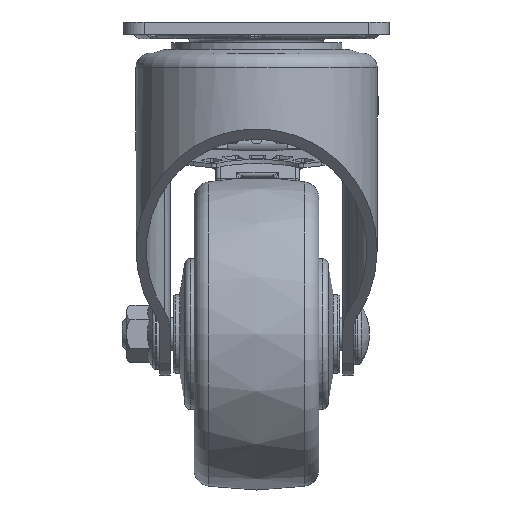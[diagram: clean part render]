
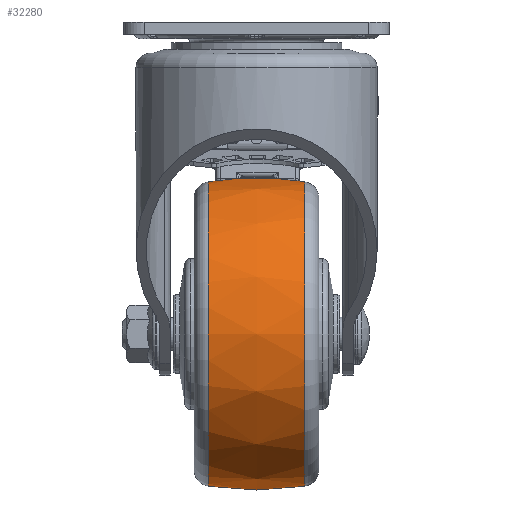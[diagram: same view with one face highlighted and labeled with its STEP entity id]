
A CAD part, left-side view. The second image highlights one B-rep face of the part: STEP entity #32280.
In plain terms, the highlighted free-form (B-spline) face has degree [2, 2] with [3, 9] control points.
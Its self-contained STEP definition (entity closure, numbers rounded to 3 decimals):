
#4407=(
BOUNDED_CURVE()
B_SPLINE_CURVE(2,(#48560,#48561,#48562),.UNSPECIFIED.,.F.,.F.)
B_SPLINE_CURVE_WITH_KNOTS((3,3),(-0.156,0.156),
 .UNSPECIFIED.)
CURVE()
GEOMETRIC_REPRESENTATION_ITEM()
RATIONAL_B_SPLINE_CURVE((1.,0.988,1.))
REPRESENTATION_ITEM('')
);
#4426=(
BOUNDED_SURFACE()
B_SPLINE_SURFACE(2,2,((#48529,#48530,#48531,#48532,#48533,#48534,#48535,
#48536,#48537),(#48538,#48539,#48540,#48541,#48542,#48543,#48544,#48545,
#48546),(#48547,#48548,#48549,#48550,#48551,#48552,#48553,#48554,#48555)),
 .UNSPECIFIED.,.F.,.T.,.F.)
B_SPLINE_SURFACE_WITH_KNOTS((3,3),(3,2,2,2,3),(-0.156,0.156),
(-3.142,-1.571,0.,1.571,3.142),
 .UNSPECIFIED.)
GEOMETRIC_REPRESENTATION_ITEM()
RATIONAL_B_SPLINE_SURFACE(((1.,0.707,1.,0.707,1.,
0.707,1.,0.707,1.),(0.988,0.699,
0.988,0.699,0.988,0.699,
0.988,0.699,0.988),(1.,0.707,
1.,0.707,1.,0.707,1.,0.707,1.)))
REPRESENTATION_ITEM('')
SURFACE()
);
#6449=FACE_OUTER_BOUND('',#8463,.T.);
#8463=EDGE_LOOP('',(#20739,#20740,#20741,#20742,#20743,#20744));
#11141=CIRCLE('',#34300,3.659);
#11142=CIRCLE('',#34301,3.659);
#11143=CIRCLE('',#34302,3.659);
#11144=CIRCLE('',#34303,3.659);
#13152=VERTEX_POINT('',#48525);
#13153=VERTEX_POINT('',#48526);
#13154=VERTEX_POINT('',#48556);
#13155=VERTEX_POINT('',#48557);
#16036=EDGE_CURVE('',#13152,#13153,#11141,.T.);
#16037=EDGE_CURVE('',#13153,#13152,#11142,.T.);
#16038=EDGE_CURVE('',#13154,#13155,#11143,.T.);
#16039=EDGE_CURVE('',#13155,#13154,#11144,.T.);
#16040=EDGE_CURVE('',#13155,#13153,#4407,.T.);
#20739=ORIENTED_EDGE('',*,*,#16038,.F.);
#20740=ORIENTED_EDGE('',*,*,#16039,.F.);
#20741=ORIENTED_EDGE('',*,*,#16040,.T.);
#20742=ORIENTED_EDGE('',*,*,#16037,.T.);
#20743=ORIENTED_EDGE('',*,*,#16036,.T.);
#20744=ORIENTED_EDGE('',*,*,#16040,.F.);
#32280=ADVANCED_FACE('',(#6449),#4426,.F.);
#34300=AXIS2_PLACEMENT_3D('',#48527,#38220,#38221);
#34301=AXIS2_PLACEMENT_3D('',#48528,#38222,#38223);
#34302=AXIS2_PLACEMENT_3D('',#48558,#38224,#38225);
#34303=AXIS2_PLACEMENT_3D('',#48559,#38226,#38227);
#38220=DIRECTION('center_axis',(0.,1.,0.));
#38221=DIRECTION('ref_axis',(0.,0.,-1.));
#38222=DIRECTION('center_axis',(0.,1.,0.));
#38223=DIRECTION('ref_axis',(0.,0.,-1.));
#38224=DIRECTION('center_axis',(0.,1.,0.));
#38225=DIRECTION('ref_axis',(0.,0.,-1.));
#38226=DIRECTION('center_axis',(0.,1.,0.));
#38227=DIRECTION('ref_axis',(0.,0.,-1.));
#48525=CARTESIAN_POINT('',(-1.722,5.005,-6.925));
#48526=CARTESIAN_POINT('',(1.937,5.005,-3.266));
#48527=CARTESIAN_POINT('Origin',(1.937,5.005,-6.925));
#48528=CARTESIAN_POINT('Origin',(1.937,5.005,-6.925));
#48529=CARTESIAN_POINT('Ctrl Pts',(1.937,5.005,-3.266));
#48530=CARTESIAN_POINT('Ctrl Pts',(5.596,5.005,-3.266));
#48531=CARTESIAN_POINT('Ctrl Pts',(5.596,5.005,-6.925));
#48532=CARTESIAN_POINT('Ctrl Pts',(5.596,5.005,-10.584));
#48533=CARTESIAN_POINT('Ctrl Pts',(1.937,5.005,-10.584));
#48534=CARTESIAN_POINT('Ctrl Pts',(-1.722,5.005,-10.584));
#48535=CARTESIAN_POINT('Ctrl Pts',(-1.722,5.005,-6.925));
#48536=CARTESIAN_POINT('Ctrl Pts',(-1.722,5.005,-3.266));
#48537=CARTESIAN_POINT('Ctrl Pts',(1.937,5.005,-3.266));
#48538=CARTESIAN_POINT('Ctrl Pts',(1.937,6.167,-3.083));
#48539=CARTESIAN_POINT('Ctrl Pts',(5.779,6.167,-3.083));
#48540=CARTESIAN_POINT('Ctrl Pts',(5.779,6.167,-6.925));
#48541=CARTESIAN_POINT('Ctrl Pts',(5.779,6.167,-10.767));
#48542=CARTESIAN_POINT('Ctrl Pts',(1.937,6.167,-10.767));
#48543=CARTESIAN_POINT('Ctrl Pts',(-1.905,6.167,-10.767));
#48544=CARTESIAN_POINT('Ctrl Pts',(-1.905,6.167,-6.925));
#48545=CARTESIAN_POINT('Ctrl Pts',(-1.905,6.167,-3.083));
#48546=CARTESIAN_POINT('Ctrl Pts',(1.937,6.167,-3.083));
#48547=CARTESIAN_POINT('Ctrl Pts',(1.937,7.329,-3.266));
#48548=CARTESIAN_POINT('Ctrl Pts',(5.596,7.329,-3.266));
#48549=CARTESIAN_POINT('Ctrl Pts',(5.596,7.329,-6.925));
#48550=CARTESIAN_POINT('Ctrl Pts',(5.596,7.329,-10.584));
#48551=CARTESIAN_POINT('Ctrl Pts',(1.937,7.329,-10.584));
#48552=CARTESIAN_POINT('Ctrl Pts',(-1.722,7.329,-10.584));
#48553=CARTESIAN_POINT('Ctrl Pts',(-1.722,7.329,-6.925));
#48554=CARTESIAN_POINT('Ctrl Pts',(-1.722,7.329,-3.266));
#48555=CARTESIAN_POINT('Ctrl Pts',(1.937,7.329,-3.266));
#48556=CARTESIAN_POINT('',(-1.722,7.329,-6.925));
#48557=CARTESIAN_POINT('',(1.937,7.329,-3.266));
#48558=CARTESIAN_POINT('Origin',(1.937,7.329,-6.925));
#48559=CARTESIAN_POINT('Origin',(1.937,7.329,-6.925));
#48560=CARTESIAN_POINT('Ctrl Pts',(1.937,7.329,-3.266));
#48561=CARTESIAN_POINT('Ctrl Pts',(1.937,6.167,-3.083));
#48562=CARTESIAN_POINT('Ctrl Pts',(1.937,5.005,-3.266));
